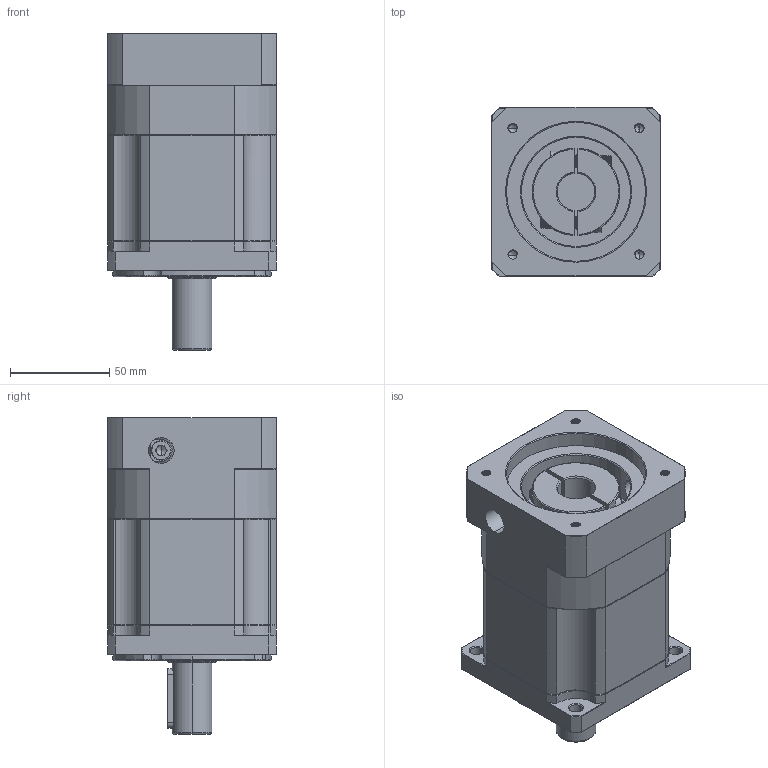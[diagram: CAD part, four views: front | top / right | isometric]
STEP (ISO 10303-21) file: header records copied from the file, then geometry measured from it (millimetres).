
FILE_DESCRIPTION (( 'STEP AP214' ), '1' );
FILE_NAME ('ZB90-D20-L2-19-70-90-M5.STEP', '2022-05-02T15:44:09', ( '' ), ( 'Microsoft' ), 'SwSTEP 2.0', 'SolidWorks 2016', '' );
FILE_SCHEMA (( 'AUTOMOTIVE_DESIGN' ));
Length unit declared in the file: millimetre
Products named in the file (1): ZB90-D20-L2-19-70-90-M5
Bounding box: 85 x 85 x 159.5 mm (x, y, z)
Volume: 729735.6 mm3; surface area: 90242.6 mm2
Topology: 4 solids, 4 shells, 1911 faces, 5026 edges, 3192 vertices
Faces by surface type: plane 876, cylinder 390, cone 319, bspline 314, torus 12
Entity records: 103949 total; most frequent: CARTESIAN_POINT 38572, ORIENTED_EDGE 10008, DIRECTION 8025, EDGE_CURVE 5004, VERTEX_POINT 3192, LINE 3083, VECTOR 3083, AXIS2_PLACEMENT_3D 2471
